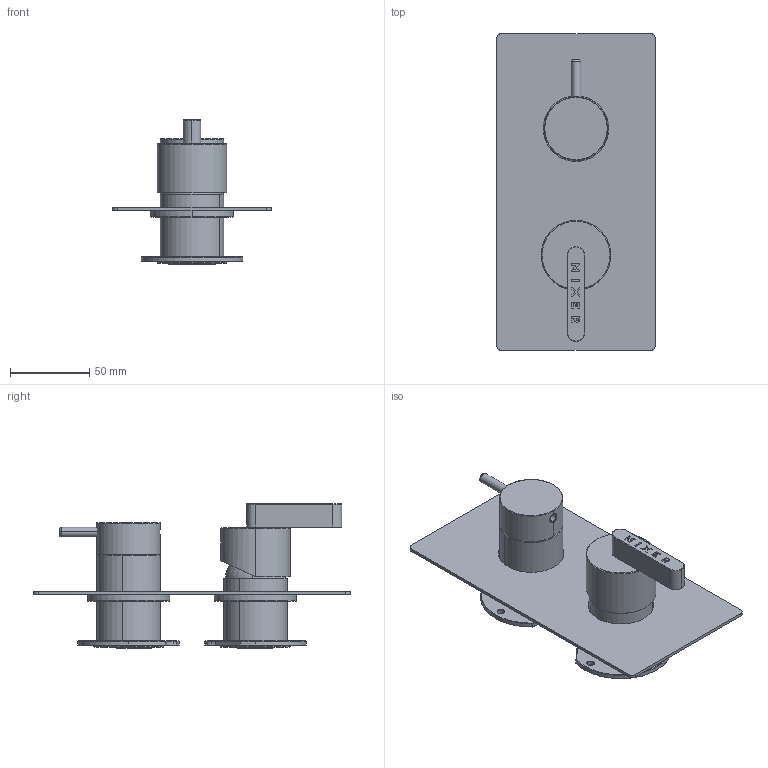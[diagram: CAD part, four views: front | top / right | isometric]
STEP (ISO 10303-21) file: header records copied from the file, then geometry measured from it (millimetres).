
FILE_DESCRIPTION (( 'STEP AP203' ), '1' );
FILE_NAME ('EMK2.STEP', '2024-01-10T09:12:10', ( '' ), ( '' ), 'SwSTEP 2.0', 'SolidWorks 2023', '' );
FILE_SCHEMA (( 'CONFIG_CONTROL_DESIGN' ));
Length unit declared in the file: millimetre
Products named in the file (29): AS756_00; C31.00.0006.01; C24.2035.00.0; C11.14.0007; C28.1829.00.0; C24.1830.00.0; C23.1878.01; C10.00.0015; C24.0075.00.0; AS816_00; AS743_00; C24.1879.00.1; C47.00.0015; EMK2; C24.1828.00.0; C24.2033.00.0; C24.1837.00.0; C25.2056.00.0; C11.10.0025; AS747_00; C10.00.0011; C25.1173.00.0; AS1078; C24.1833.00.0; C11.15.0006; C12.00.0057; C47.00.0023.01; C25.2695.00; GRANCO M4x4 ACCIAIO
Assembly tree (29 placements, depth 4):
  EMK2
    AS1078
      C25.2695.00
      C25.2056.00.0  x2
    AS743_00
      C24.0075.00.0
      C10.00.0011
      C24.1833.00.0
      C24.1828.00.0
      C28.1829.00.0
      AS756_00
        C24.1879.00.1
        C25.1173.00.0
        C23.1878.01
        C11.14.0007
    AS747_00
      C47.00.0015
      C10.00.0015
      C24.1830.00.0
      C12.00.0057
      C24.1837.00.0
      C31.00.0006.01
    AS816_00
      C24.2035.00.0
      C11.15.0006
      C11.10.0025
      C24.2033.00.0
    GRANCO M4x4 ACCIAIO
    C47.00.0023.01
Bounding box: 100 x 200 x 91.2 mm (x, y, z)
Volume: 194006.6 mm3; surface area: 135801.9 mm2
Topology: 25 solids, 25 shells, 987 faces, 2328 edges, 1440 vertices
Faces by surface type: cylinder 392, plane 303, cone 186, torus 72, bspline 34
Entity records: 33188 total; most frequent: CARTESIAN_POINT 7084, DIRECTION 5212, ORIENTED_EDGE 4560, EDGE_CURVE 2280, AXIS2_PLACEMENT_3D 2095, VERTEX_POINT 1422, CIRCLE 1120, EDGE_LOOP 1112
